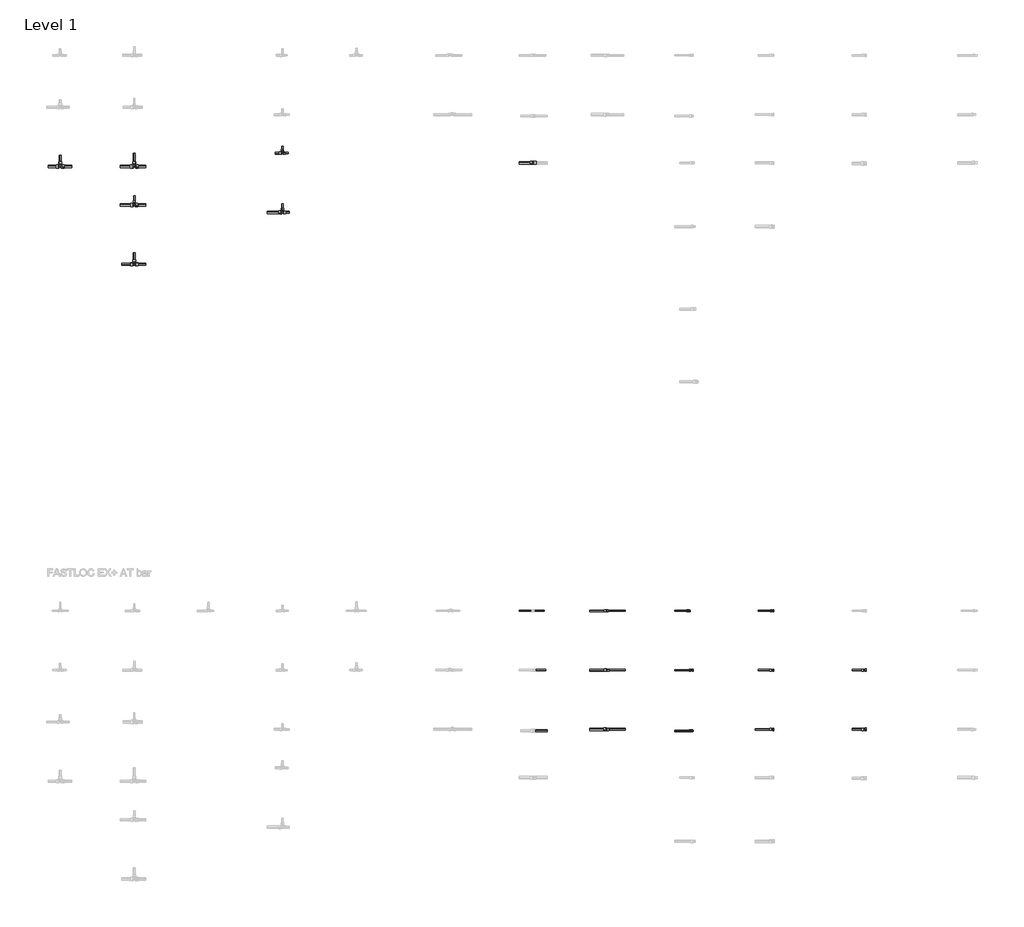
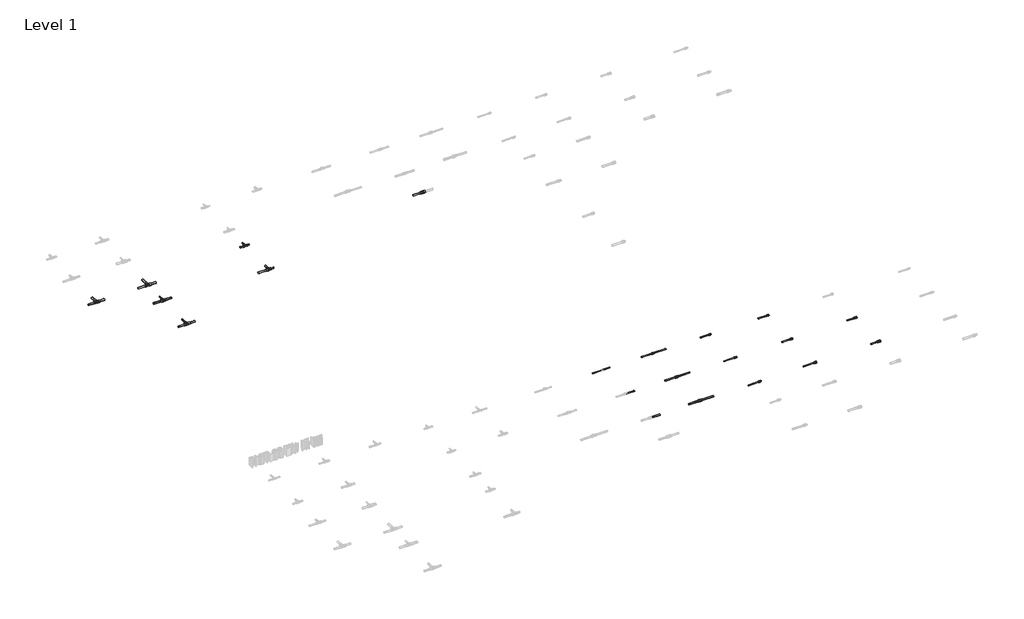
# One storey, part 3 of 16: 37 pipe segments, 18 pipe fittings.
"""IFC4 building model written with IfcOpenShell, lengths in millimetres."""

from ifc_helpers import new_model, si_unit, point, frame, frame_2d, origin, place, context, project, spatial, circle_curve, trimmed, segment, composite_curve, outline, extrude, transform, mapped, element, save
from components import pipe_fitting_41a35f07, pipe_fitting_bbd05bdc, pipe_fitting_7921c085, pipe_fitting_502111f3, pipe_fitting_137fcba6, pipe_fitting_c3e7e8f9, pipe_fitting_baae1e9c, pipe_fitting_6195120d, pipe_fitting_f5731c1c, pipe_fitting_f9f4b2e9, pipe_fitting_382bea88, pipe_fitting_836a2278, pipe_fitting_a8691e68, pipe_fitting_c518d98d, pipe_fitting_b7086254, pipe_fitting_f7ee4d9f, pipe_fitting_f8d70d0e

model = new_model("IFC4")

# Units and contexts
model_context = context("Model", 3, world=origin())
ifc_project = project(units=[si_unit("LENGTHUNIT", "METRE", prefix="MILLI")], contexts=[model_context])

# Site, building, storey
site = spatial("IfcSite", under=ifc_project)
building = spatial("IfcBuilding", under=site)
storey = spatial("IfcBuildingStorey", under=building, Name="Level 1", Elevation=0.0)

# Pipe fittings
placement = place(None, origin())
pipe_fitting_shape = pipe_fitting_41a35f07(model_context)
element("IfcPipeFitting", 1, ObjectType="FASTLOC_Adapter_RX+, with external thread : FSL A C external EX+ AT", at=placement, inside=storey, context=model_context, shape_type="MappedRepresentation", body=[
    mapped(pipe_fitting_shape, transform((10080.5062975, -7087.6479967, 0.0), x_axis=(1.0, 0.0, 0.0), y_axis=(0.0, 1.0, 0.0), z_axis=(0.0, 0.0, 1.0))),
])
pipe_fitting_2_shape = pipe_fitting_bbd05bdc(model_context)
element("IfcPipeFitting", 2, ObjectType="FASTLOC_Adapter_RX+, with external thread : FSL A C external EX+ AT", at=placement, inside=storey, context=model_context, shape_type="MappedRepresentation", body=[
    mapped(pipe_fitting_2_shape, transform((10090.6359613, -7906.354246, 0.0), x_axis=(1.0, 0.0, 0.0), y_axis=(0.0, 1.0, 0.0), z_axis=(0.0, 0.0, 1.0))),
])
pipe_fitting_3_shape = pipe_fitting_7921c085(model_context)
element("IfcPipeFitting", 3, ObjectType="FASTLOC_T-piece_EX+ : FSL T-Piece EX+ DE", at=placement, inside=storey, context=model_context, shape_type="MappedRepresentation", body=[
    mapped(pipe_fitting_3_shape, transform((1562.9146925, -287.6479967, 0.0), x_axis=(1.0, 0.0, 0.0), y_axis=(0.0, 1.0, 0.0), z_axis=(0.0, 0.0, 1.0))),
])
element("IfcPipeFitting", 4, ObjectType="FASTLOC_T-piece_EX+ : FSL T-Piece EX+ DE", at=placement, inside=storey, context=model_context, shape_type="MappedRepresentation", body=[
    mapped(pipe_fitting_3_shape, transform((2562.9146925, -287.6479967, 0.0), x_axis=(1.0, 0.0, 0.0), y_axis=(0.0, 1.0, 0.0), z_axis=(0.0, 0.0, 1.0))),
])
pipe_fitting_4_shape = pipe_fitting_502111f3(model_context)
element("IfcPipeFitting", 5, ObjectType="FASTLOC_T-piece_EX+ : FSL T-Piece EX+ DE", at=placement, inside=storey, context=model_context, shape_type="MappedRepresentation", body=[
    mapped(pipe_fitting_4_shape, transform((2562.9146925, -807.6479967, 0.0), x_axis=(1.0, 0.0, 0.0), y_axis=(0.0, 1.0, 0.0), z_axis=(0.0, 0.0, 1.0))),
])
pipe_fitting_5_shape = pipe_fitting_137fcba6(model_context)
element("IfcPipeFitting", 6, ObjectType="FASTLOC_T-piece_EX+ : FSL T-Piece EX+ DE", at=placement, inside=storey, context=model_context, shape_type="MappedRepresentation", body=[
    mapped(pipe_fitting_5_shape, transform((2562.9146925, -1607.6479967, 0.0), x_axis=(1.0, 0.0, 0.0), y_axis=(0.0, 1.0, 0.0), z_axis=(0.0, 0.0, 1.0))),
])
pipe_fitting_6_shape = pipe_fitting_c3e7e8f9(model_context)
element("IfcPipeFitting", 7, ObjectType="FASTLOC_T-piece_EX+ : FSL T-Piece EX+ DE", at=placement, inside=storey, context=model_context, shape_type="MappedRepresentation", body=[
    mapped(pipe_fitting_6_shape, transform((4562.9146925, -907.6479967, 0.0), x_axis=(1.0, 0.0, 0.0), y_axis=(0.0, 1.0, 0.0), z_axis=(0.0, 0.0, 1.0))),
])
pipe_fitting_7_shape = pipe_fitting_baae1e9c(model_context)
element("IfcPipeFitting", 8, ObjectType="FASTLOC_T-piece_EX+ : FSL T-Piece EX+ DE", at=placement, inside=storey, context=model_context, shape_type="MappedRepresentation", body=[
    mapped(pipe_fitting_7_shape, transform((4562.9146925, -107.6479967, 0.0), x_axis=(1.0, 0.0, 0.0), y_axis=(0.0, 1.0, 0.0), z_axis=(0.0, 0.0, 1.0))),
])
pipe_fitting_8_shape = pipe_fitting_6195120d(model_context)
element("IfcPipeFitting", 9, ObjectType="FASTLOC_Coupling reduced EX+ : FSL C RE EX+ AT", at=placement, inside=storey, context=model_context, shape_type="MappedRepresentation", body=[
    mapped(pipe_fitting_8_shape, transform((8942.2258143, -6287.6479967, 0.0), x_axis=(1.0, 0.0, 0.0), y_axis=(0.0, 1.0, 0.0), z_axis=(0.0, 0.0, 1.0))),
])
pipe_fitting_9_shape = pipe_fitting_f5731c1c(model_context)
element("IfcPipeFitting", 10, ObjectType="FASTLOC_Coupling equal EX+ : FSL C EQ EX+ DE", at=placement, inside=storey, context=model_context, shape_type="MappedRepresentation", body=[
    mapped(pipe_fitting_9_shape, transform((7947.6401575, -239.0537829, 0.0), x_axis=(1.0, 0.0, 0.0), y_axis=(0.0, 1.0, 0.0), z_axis=(0.0, 0.0, 1.0))),
])
pipe_fitting_10_shape = pipe_fitting_f9f4b2e9(model_context)
element("IfcPipeFitting", 11, ObjectType="FASTLOC_Coupling reduced EX+ : FSL C RE EX+ AT", at=placement, inside=storey, context=model_context, shape_type="MappedRepresentation", body=[
    mapped(pipe_fitting_10_shape, transform((8942.2258143, -7087.6479967, 0.0), x_axis=(1.0, 0.0, 0.0), y_axis=(0.0, 1.0, 0.0), z_axis=(0.0, 0.0, 1.0))),
])
pipe_fitting_11_shape = pipe_fitting_382bea88(model_context)
element("IfcPipeFitting", 12, ObjectType="FASTLOC_Coupling reduced EX+ : FSL C RE EX+ AT", at=placement, inside=storey, context=model_context, shape_type="MappedRepresentation", body=[
    mapped(pipe_fitting_11_shape, transform((8942.2258143, -7887.6479967, 0.0), x_axis=(1.0, 0.0, 0.0), y_axis=(0.0, 1.0, 0.0), z_axis=(0.0, 0.0, 1.0))),
])
pipe_fitting_12_shape = pipe_fitting_836a2278(model_context)
element("IfcPipeFitting", 13, ObjectType="FASTLOC_Adapter_EX+, with internal thread : FSL A internal AT", at=placement, inside=storey, context=model_context, shape_type="MappedRepresentation", body=[
    mapped(pipe_fitting_12_shape, transform((11179.5143796, -6287.6479967, 0.0), x_axis=(1.0, 0.0, 0.0), y_axis=(0.0, 1.0, 0.0), z_axis=(0.0, 0.0, 1.0))),
])
pipe_fitting_13_shape = pipe_fitting_a8691e68(model_context)
element("IfcPipeFitting", 14, ObjectType="FASTLOC_Adapter_RX+, with external thread : FSL A C external EX+ AT", at=placement, inside=storey, context=model_context, shape_type="MappedRepresentation", body=[
    mapped(pipe_fitting_13_shape, transform((10045.0524741, -6287.6479967, 0.0), x_axis=(1.0, 0.0, 0.0), y_axis=(0.0, 1.0, 0.0), z_axis=(0.0, 0.0, 1.0))),
])
pipe_fitting_14_shape = pipe_fitting_c518d98d(model_context)
element("IfcPipeFitting", 15, ObjectType="FASTLOC_Adapter with union nut EX+ : FSL A union nut EX+ AT", at=placement, inside=storey, context=model_context, shape_type="MappedRepresentation", body=[
    mapped(pipe_fitting_14_shape, transform((12418.3503777, -7087.6479967, 0.0), x_axis=(1.0, 0.0, 0.0), y_axis=(0.0, 1.0, 0.0), z_axis=(0.0, 0.0, 1.0))),
])
pipe_fitting_15_shape = pipe_fitting_b7086254(model_context)
element("IfcPipeFitting", 16, ObjectType="FASTLOC_Adapter with union nut EX+ : FSL A union nut EX+ AT", at=placement, inside=storey, context=model_context, shape_type="MappedRepresentation", body=[
    mapped(pipe_fitting_15_shape, transform((12418.3503777, -7887.6479967, 0.0), x_axis=(1.0, 0.0, 0.0), y_axis=(0.0, 1.0, 0.0), z_axis=(0.0, 0.0, 1.0))),
])
pipe_fitting_16_shape = pipe_fitting_f7ee4d9f(model_context)
element("IfcPipeFitting", 17, ObjectType="FASTLOC_Adapter_EX+, with internal thread : FSL A internal AT", at=placement, inside=storey, context=model_context, shape_type="MappedRepresentation", body=[
    mapped(pipe_fitting_16_shape, transform((11179.5143796, -7087.6479967, 0.0), x_axis=(1.0, 0.0, 0.0), y_axis=(0.0, 1.0, 0.0), z_axis=(0.0, 0.0, 1.0))),
])
pipe_fitting_17_shape = pipe_fitting_f8d70d0e(model_context)
element("IfcPipeFitting", 18, ObjectType="FASTLOC_Adapter_EX+, with internal thread : FSL A internal AT", at=placement, inside=storey, context=model_context, shape_type="MappedRepresentation", body=[
    mapped(pipe_fitting_17_shape, transform((11179.5143796, -7887.6479967, 0.0), x_axis=(1.0, 0.0, 0.0), y_axis=(0.0, 1.0, 0.0), z_axis=(0.0, 0.0, 1.0))),
])

# Pipe segments
element("IfcPipeSegment", 19, ObjectType="FASTLOC EX+ ML DE bar", at=placement, inside=storey, context=model_context, shape_type="SweptSolid", body=[
    extrude(outline(composite_curve([segment(trimmed(circle_curve(frame_2d((-239.0537829, 0.0)), 16.0), [point((-223.0537829, 0.0))], [point((-239.0537829, -16.0))], False, "CARTESIAN"), True, "CONTINUOUS"), segment(trimmed(circle_curve(frame_2d((-239.0537829, 0.0)), 16.0), [point((-239.0537829, -16.0))], [point((-255.0537829, 0.0))], False, "CARTESIAN"), True, "CONTINUOUS"), segment(trimmed(circle_curve(frame_2d((-239.0537829, 0.0)), 16.0), [point((-255.0537829, 0.0))], [point((-239.0537829, 16.0))], False, "CARTESIAN"), True, "CONTINUOUS"), segment(trimmed(circle_curve(frame_2d((-239.0537829, 0.0)), 16.0), [point((-239.0537829, 16.0))], [point((-223.0537829, 0.0))], False, "CARTESIAN"), True, "CONTINUOUS")], self_intersect=False)), frame((7757.6401575, 0.0, 0.0), z_axis=(1.0, 0.0, 0.0), x_axis=(0.0, 1.0, 0.0)), (0.0, 0.0, 1.0), 180.0),
])
element("IfcPipeSegment", 20, ObjectType="FASTLOC EX+ ML DE bar", at=placement, inside=storey, context=model_context, shape_type="SweptSolid", body=[
    extrude(outline(composite_curve([segment(trimmed(circle_curve(frame_2d((-107.6479967, 0.0)), 10.0), [point((-117.6479967, 0.0))], [point((-107.6479967, 10.0))], False, "CARTESIAN"), True, "CONTINUOUS"), segment(trimmed(circle_curve(frame_2d((-107.6479967, 0.0)), 10.0), [point((-107.6479967, 10.0))], [point((-97.6479967, 0.0))], False, "CARTESIAN"), True, "CONTINUOUS"), segment(trimmed(circle_curve(frame_2d((-107.6479967, 0.0)), 10.0), [point((-97.6479967, 0.0))], [point((-107.6479967, -10.0))], False, "CARTESIAN"), True, "CONTINUOUS"), segment(trimmed(circle_curve(frame_2d((-107.6479967, 0.0)), 10.0), [point((-107.6479967, -10.0))], [point((-117.6479967, 0.0))], False, "CARTESIAN"), True, "CONTINUOUS")], self_intersect=False)), frame((4580.3146925, 0.0, 0.0), z_axis=(1.0, 0.0, 0.0), x_axis=(0.0, 1.0, 0.0)), (0.0, 0.0, 1.0), 60.0),
])
element("IfcPipeSegment", 21, ObjectType="FASTLOC EX+ ML DE bar", at=placement, inside=storey, context=model_context, shape_type="SweptSolid", body=[
    extrude(outline(composite_curve([segment(trimmed(circle_curve(frame_2d((0.0, 4562.9146925)), 10.0), [point((0.0, 4572.9146925))], [point((10.0, 4562.9146925))], False, "CARTESIAN"), True, "CONTINUOUS"), segment(trimmed(circle_curve(frame_2d((0.0, 4562.9146925)), 10.0), [point((10.0, 4562.9146925))], [point((0.0, 4552.9146925))], False, "CARTESIAN"), True, "CONTINUOUS"), segment(trimmed(circle_curve(frame_2d((0.0, 4562.9146925)), 10.0), [point((0.0, 4552.9146925))], [point((-10.0, 4562.9146925))], False, "CARTESIAN"), True, "CONTINUOUS"), segment(trimmed(circle_curve(frame_2d((0.0, 4562.9146925)), 10.0), [point((-10.0, 4562.9146925))], [point((0.0, 4572.9146925))], False, "CARTESIAN"), True, "CONTINUOUS")], self_intersect=False)), frame((0.0, -78.4479967, 0.0), z_axis=(0.0, 1.0, 0.0), x_axis=(0.0, 0.0, 1.0)), (0.0, 0.0, 1.0), 65.0),
])
element("IfcPipeSegment", 22, ObjectType="FASTLOC EX+ ML DE bar", at=placement, inside=storey, context=model_context, shape_type="SweptSolid", body=[
    extrude(outline(composite_curve([segment(trimmed(circle_curve(frame_2d((-107.6479967, 0.0)), 12.5), [point((-95.1479967, 0.0))], [point((-107.6479967, -12.5))], False, "CARTESIAN"), True, "CONTINUOUS"), segment(trimmed(circle_curve(frame_2d((-107.6479967, 0.0)), 12.5), [point((-107.6479967, -12.5))], [point((-120.1479967, 0.0))], False, "CARTESIAN"), True, "CONTINUOUS"), segment(trimmed(circle_curve(frame_2d((-107.6479967, 0.0)), 12.5), [point((-120.1479967, 0.0))], [point((-107.6479967, 12.5))], False, "CARTESIAN"), True, "CONTINUOUS"), segment(trimmed(circle_curve(frame_2d((-107.6479967, 0.0)), 12.5), [point((-107.6479967, 12.5))], [point((-95.1479967, 0.0))], False, "CARTESIAN"), True, "CONTINUOUS")], self_intersect=False)), frame((4464.6146925, 0.0, 0.0), z_axis=(1.0, 0.0, 0.0), x_axis=(0.0, 1.0, 0.0)), (0.0, 0.0, 1.0), 80.0),
])
element("IfcPipeSegment", 23, ObjectType="FASTLOC EX+ ML DE bar", at=placement, inside=storey, context=model_context, shape_type="SweptSolid", body=[
    extrude(outline(composite_curve([segment(trimmed(circle_curve(frame_2d((-907.6479967, 0.0)), 12.5), [point((-920.1479967, 0.0))], [point((-907.6479967, 12.5))], False, "CARTESIAN"), True, "CONTINUOUS"), segment(trimmed(circle_curve(frame_2d((-907.6479967, 0.0)), 12.5), [point((-907.6479967, 12.5))], [point((-895.1479967, 0.0))], False, "CARTESIAN"), True, "CONTINUOUS"), segment(trimmed(circle_curve(frame_2d((-907.6479967, 0.0)), 12.5), [point((-895.1479967, 0.0))], [point((-907.6479967, -12.5))], False, "CARTESIAN"), True, "CONTINUOUS"), segment(trimmed(circle_curve(frame_2d((-907.6479967, 0.0)), 12.5), [point((-907.6479967, -12.5))], [point((-920.1479967, 0.0))], False, "CARTESIAN"), True, "CONTINUOUS")], self_intersect=False)), frame((4583.0146925, 0.0, 0.0), z_axis=(1.0, 0.0, 0.0), x_axis=(0.0, 1.0, 0.0)), (0.0, 0.0, 1.0), 70.4),
])
element("IfcPipeSegment", 24, ObjectType="FASTLOC EX+ ML DE bar", at=placement, inside=storey, context=model_context, shape_type="SweptSolid", body=[
    extrude(outline(composite_curve([segment(trimmed(circle_curve(frame_2d((0.0, 4562.9146925)), 12.5), [point((0.0, 4575.4146925))], [point((12.5, 4562.9146925))], False, "CARTESIAN"), True, "CONTINUOUS"), segment(trimmed(circle_curve(frame_2d((0.0, 4562.9146925)), 12.5), [point((12.5, 4562.9146925))], [point((0.0, 4550.4146925))], False, "CARTESIAN"), True, "CONTINUOUS"), segment(trimmed(circle_curve(frame_2d((0.0, 4562.9146925)), 12.5), [point((0.0, 4550.4146925))], [point((-12.5, 4562.9146925))], False, "CARTESIAN"), True, "CONTINUOUS"), segment(trimmed(circle_curve(frame_2d((0.0, 4562.9146925)), 12.5), [point((-12.5, 4562.9146925))], [point((0.0, 4575.4146925))], False, "CARTESIAN"), True, "CONTINUOUS")], self_intersect=False)), frame((0.0, -873.2479967, 0.0), z_axis=(0.0, 1.0, 0.0), x_axis=(0.0, 0.0, 1.0)), (0.0, 0.0, 1.0), 85.0),
])
element("IfcPipeSegment", 25, ObjectType="FASTLOC EX+ ML DE bar", at=placement, inside=storey, context=model_context, shape_type="SweptSolid", body=[
    extrude(outline(composite_curve([segment(trimmed(circle_curve(frame_2d((-907.6479967, 0.0)), 16.0), [point((-891.6479967, 0.0))], [point((-907.6479967, -16.0))], False, "CARTESIAN"), True, "CONTINUOUS"), segment(trimmed(circle_curve(frame_2d((-907.6479967, 0.0)), 16.0), [point((-907.6479967, -16.0))], [point((-923.6479967, 0.0))], False, "CARTESIAN"), True, "CONTINUOUS"), segment(trimmed(circle_curve(frame_2d((-907.6479967, 0.0)), 16.0), [point((-923.6479967, 0.0))], [point((-907.6479967, 16.0))], False, "CARTESIAN"), True, "CONTINUOUS"), segment(trimmed(circle_curve(frame_2d((-907.6479967, 0.0)), 16.0), [point((-907.6479967, 16.0))], [point((-891.6479967, 0.0))], False, "CARTESIAN"), True, "CONTINUOUS")], self_intersect=False)), frame((4355.8146925, 0.0, 0.0), z_axis=(1.0, 0.0, 0.0), x_axis=(0.0, 1.0, 0.0)), (0.0, 0.0, 1.0), 185.0),
])
element("IfcPipeSegment", 26, ObjectType="FASTLOC EX+ ML DE bar", at=placement, inside=storey, context=model_context, shape_type="SweptSolid", body=[
    extrude(outline(composite_curve([segment(trimmed(circle_curve(frame_2d((-287.6479967, 0.0)), 16.0), [point((-303.6479967, 0.0))], [point((-287.6479967, 16.0))], False, "CARTESIAN"), True, "CONTINUOUS"), segment(trimmed(circle_curve(frame_2d((-287.6479967, 0.0)), 16.0), [point((-287.6479967, 16.0))], [point((-271.6479967, 0.0))], False, "CARTESIAN"), True, "CONTINUOUS"), segment(trimmed(circle_curve(frame_2d((-287.6479967, 0.0)), 16.0), [point((-271.6479967, 0.0))], [point((-287.6479967, -16.0))], False, "CARTESIAN"), True, "CONTINUOUS"), segment(trimmed(circle_curve(frame_2d((-287.6479967, 0.0)), 16.0), [point((-287.6479967, -16.0))], [point((-303.6479967, 0.0))], False, "CARTESIAN"), True, "CONTINUOUS")], self_intersect=False)), frame((2587.7146925, 0.0, 0.0), z_axis=(1.0, 0.0, 0.0), x_axis=(0.0, 1.0, 0.0)), (0.0, 0.0, 1.0), 130.0),
])
element("IfcPipeSegment", 27, ObjectType="FASTLOC EX+ ML DE bar", at=placement, inside=storey, context=model_context, shape_type="SweptSolid", body=[
    extrude(outline(composite_curve([segment(trimmed(circle_curve(frame_2d((0.0, 2562.9146925)), 16.0), [point((0.0, 2578.9146925))], [point((16.0, 2562.9146925))], False, "CARTESIAN"), True, "CONTINUOUS"), segment(trimmed(circle_curve(frame_2d((0.0, 2562.9146925)), 16.0), [point((16.0, 2562.9146925))], [point((0.0, 2546.9146925))], False, "CARTESIAN"), True, "CONTINUOUS"), segment(trimmed(circle_curve(frame_2d((0.0, 2562.9146925)), 16.0), [point((0.0, 2546.9146925))], [point((-16.0, 2562.9146925))], False, "CARTESIAN"), True, "CONTINUOUS"), segment(trimmed(circle_curve(frame_2d((0.0, 2562.9146925)), 16.0), [point((-16.0, 2562.9146925))], [point((0.0, 2578.9146925))], False, "CARTESIAN"), True, "CONTINUOUS")], self_intersect=False)), frame((0.0, -251.5479967, 0.0), z_axis=(0.0, 1.0, 0.0), x_axis=(0.0, 0.0, 1.0)), (0.0, 0.0, 1.0), 145.0),
])
element("IfcPipeSegment", 28, ObjectType="FASTLOC EX+ ML DE bar", at=placement, inside=storey, context=model_context, shape_type="SweptSolid", body=[
    extrude(outline(composite_curve([segment(trimmed(circle_curve(frame_2d((-287.6479967, 0.0)), 16.0), [point((-271.6479967, 0.0))], [point((-287.6479967, -16.0))], False, "CARTESIAN"), True, "CONTINUOUS"), segment(trimmed(circle_curve(frame_2d((-287.6479967, 0.0)), 16.0), [point((-287.6479967, -16.0))], [point((-303.6479967, 0.0))], False, "CARTESIAN"), True, "CONTINUOUS"), segment(trimmed(circle_curve(frame_2d((-287.6479967, 0.0)), 16.0), [point((-303.6479967, 0.0))], [point((-287.6479967, 16.0))], False, "CARTESIAN"), True, "CONTINUOUS"), segment(trimmed(circle_curve(frame_2d((-287.6479967, 0.0)), 16.0), [point((-287.6479967, 16.0))], [point((-271.6479967, 0.0))], False, "CARTESIAN"), True, "CONTINUOUS")], self_intersect=False)), frame((2373.1146925, 0.0, 0.0), z_axis=(1.0, 0.0, 0.0), x_axis=(0.0, 1.0, 0.0)), (0.0, 0.0, 1.0), 165.0),
])
element("IfcPipeSegment", 29, ObjectType="FASTLOC EX+ ML DE bar", at=placement, inside=storey, context=model_context, shape_type="SweptSolid", body=[
    extrude(outline(composite_curve([segment(trimmed(circle_curve(frame_2d((-807.6479967, 0.0)), 16.0), [point((-823.6479967, 0.0))], [point((-807.6479967, 16.0))], False, "CARTESIAN"), True, "CONTINUOUS"), segment(trimmed(circle_curve(frame_2d((-807.6479967, 0.0)), 16.0), [point((-807.6479967, 16.0))], [point((-791.6479967, 0.0))], False, "CARTESIAN"), True, "CONTINUOUS"), segment(trimmed(circle_curve(frame_2d((-807.6479967, 0.0)), 16.0), [point((-791.6479967, 0.0))], [point((-807.6479967, -16.0))], False, "CARTESIAN"), True, "CONTINUOUS"), segment(trimmed(circle_curve(frame_2d((-807.6479967, 0.0)), 16.0), [point((-807.6479967, -16.0))], [point((-823.6479967, 0.0))], False, "CARTESIAN"), True, "CONTINUOUS")], self_intersect=False)), frame((2583.1146925, 0.0, 0.0), z_axis=(1.0, 0.0, 0.0), x_axis=(0.0, 1.0, 0.0)), (0.0, 0.0, 1.0), 134.6),
])
element("IfcPipeSegment", 30, ObjectType="FASTLOC EX+ ML DE bar", at=placement, inside=storey, context=model_context, shape_type="SweptSolid", body=[
    extrude(outline(composite_curve([segment(trimmed(circle_curve(frame_2d((-807.6479967, 0.0)), 16.0), [point((-791.6479967, 0.0))], [point((-807.6479967, -16.0))], False, "CARTESIAN"), True, "CONTINUOUS"), segment(trimmed(circle_curve(frame_2d((-807.6479967, 0.0)), 16.0), [point((-807.6479967, -16.0))], [point((-823.6479967, 0.0))], False, "CARTESIAN"), True, "CONTINUOUS"), segment(trimmed(circle_curve(frame_2d((-807.6479967, 0.0)), 16.0), [point((-823.6479967, 0.0))], [point((-807.6479967, 16.0))], False, "CARTESIAN"), True, "CONTINUOUS"), segment(trimmed(circle_curve(frame_2d((-807.6479967, 0.0)), 16.0), [point((-807.6479967, 16.0))], [point((-791.6479967, 0.0))], False, "CARTESIAN"), True, "CONTINUOUS")], self_intersect=False)), frame((2373.1146925, 0.0, 0.0), z_axis=(1.0, 0.0, 0.0), x_axis=(0.0, 1.0, 0.0)), (0.0, 0.0, 1.0), 169.6),
])
element("IfcPipeSegment", 31, ObjectType="FASTLOC EX+ ML DE bar", at=placement, inside=storey, context=model_context, shape_type="SweptSolid", body=[
    extrude(outline(composite_curve([segment(trimmed(circle_curve(frame_2d((0.0, 2562.9146925)), 10.0), [point((0.0, 2572.9146925))], [point((10.0, 2562.9146925))], False, "CARTESIAN"), True, "CONTINUOUS"), segment(trimmed(circle_curve(frame_2d((0.0, 2562.9146925)), 10.0), [point((10.0, 2562.9146925))], [point((0.0, 2552.9146925))], False, "CARTESIAN"), True, "CONTINUOUS"), segment(trimmed(circle_curve(frame_2d((0.0, 2562.9146925)), 10.0), [point((0.0, 2552.9146925))], [point((-10.0, 2562.9146925))], False, "CARTESIAN"), True, "CONTINUOUS"), segment(trimmed(circle_curve(frame_2d((0.0, 2562.9146925)), 10.0), [point((-10.0, 2562.9146925))], [point((0.0, 2572.9146925))], False, "CARTESIAN"), True, "CONTINUOUS")], self_intersect=False)), frame((0.0, -773.6479967, 0.0), z_axis=(0.0, 1.0, 0.0), x_axis=(0.0, 0.0, 1.0)), (0.0, 0.0, 1.0), 90.0),
])
element("IfcPipeSegment", 32, ObjectType="FASTLOC EX+ ML DE bar", at=placement, inside=storey, context=model_context, shape_type="SweptSolid", body=[
    extrude(outline(composite_curve([segment(trimmed(circle_curve(frame_2d((-1607.6479967, 0.0)), 16.0), [point((-1623.6479967, 0.0))], [point((-1607.6479967, 16.0))], False, "CARTESIAN"), True, "CONTINUOUS"), segment(trimmed(circle_curve(frame_2d((-1607.6479967, 0.0)), 16.0), [point((-1607.6479967, 16.0))], [point((-1591.6479967, 0.0))], False, "CARTESIAN"), True, "CONTINUOUS"), segment(trimmed(circle_curve(frame_2d((-1607.6479967, 0.0)), 16.0), [point((-1591.6479967, 0.0))], [point((-1607.6479967, -16.0))], False, "CARTESIAN"), True, "CONTINUOUS"), segment(trimmed(circle_curve(frame_2d((-1607.6479967, 0.0)), 16.0), [point((-1607.6479967, -16.0))], [point((-1623.6479967, 0.0))], False, "CARTESIAN"), True, "CONTINUOUS")], self_intersect=False)), frame((2584.9146925, 0.0, 0.0), z_axis=(1.0, 0.0, 0.0), x_axis=(0.0, 1.0, 0.0)), (0.0, 0.0, 1.0), 132.8),
])
element("IfcPipeSegment", 33, ObjectType="FASTLOC EX+ ML DE bar", at=placement, inside=storey, context=model_context, shape_type="SweptSolid", body=[
    extrude(outline(composite_curve([segment(trimmed(circle_curve(frame_2d((-1607.6479967, 0.0)), 16.0), [point((-1591.6479967, 0.0))], [point((-1607.6479967, -16.0))], False, "CARTESIAN"), True, "CONTINUOUS"), segment(trimmed(circle_curve(frame_2d((-1607.6479967, 0.0)), 16.0), [point((-1607.6479967, -16.0))], [point((-1623.6479967, 0.0))], False, "CARTESIAN"), True, "CONTINUOUS"), segment(trimmed(circle_curve(frame_2d((-1607.6479967, 0.0)), 16.0), [point((-1623.6479967, 0.0))], [point((-1607.6479967, 16.0))], False, "CARTESIAN"), True, "CONTINUOUS"), segment(trimmed(circle_curve(frame_2d((-1607.6479967, 0.0)), 16.0), [point((-1607.6479967, 16.0))], [point((-1591.6479967, 0.0))], False, "CARTESIAN"), True, "CONTINUOUS")], self_intersect=False)), frame((2395.9146925, 0.0, 0.0), z_axis=(1.0, 0.0, 0.0), x_axis=(0.0, 1.0, 0.0)), (0.0, 0.0, 1.0), 145.0),
])
element("IfcPipeSegment", 34, ObjectType="FASTLOC EX+ ML DE bar", at=placement, inside=storey, context=model_context, shape_type="SweptSolid", body=[
    extrude(outline(composite_curve([segment(trimmed(circle_curve(frame_2d((0.0, 2562.9146925)), 12.5), [point((0.0, 2575.4146925))], [point((12.5, 2562.9146925))], False, "CARTESIAN"), True, "CONTINUOUS"), segment(trimmed(circle_curve(frame_2d((0.0, 2562.9146925)), 12.5), [point((12.5, 2562.9146925))], [point((0.0, 2550.4146925))], False, "CARTESIAN"), True, "CONTINUOUS"), segment(trimmed(circle_curve(frame_2d((0.0, 2562.9146925)), 12.5), [point((0.0, 2550.4146925))], [point((-12.5, 2562.9146925))], False, "CARTESIAN"), True, "CONTINUOUS"), segment(trimmed(circle_curve(frame_2d((0.0, 2562.9146925)), 12.5), [point((-12.5, 2562.9146925))], [point((0.0, 2575.4146925))], False, "CARTESIAN"), True, "CONTINUOUS")], self_intersect=False)), frame((0.0, -1573.2479967, 0.0), z_axis=(0.0, 1.0, 0.0), x_axis=(0.0, 0.0, 1.0)), (0.0, 0.0, 1.0), 120.0),
])
element("IfcPipeSegment", 35, ObjectType="FASTLOC EX+ ML DE bar", at=placement, inside=storey, context=model_context, shape_type="SweptSolid", body=[
    extrude(outline(composite_curve([segment(trimmed(circle_curve(frame_2d((-287.6479967, 0.0)), 16.0), [point((-303.6479967, 0.0))], [point((-287.6479967, 16.0))], False, "CARTESIAN"), True, "CONTINUOUS"), segment(trimmed(circle_curve(frame_2d((-287.6479967, 0.0)), 16.0), [point((-287.6479967, 16.0))], [point((-271.6479967, 0.0))], False, "CARTESIAN"), True, "CONTINUOUS"), segment(trimmed(circle_curve(frame_2d((-287.6479967, 0.0)), 16.0), [point((-271.6479967, 0.0))], [point((-287.6479967, -16.0))], False, "CARTESIAN"), True, "CONTINUOUS"), segment(trimmed(circle_curve(frame_2d((-287.6479967, 0.0)), 16.0), [point((-287.6479967, -16.0))], [point((-303.6479967, 0.0))], False, "CARTESIAN"), True, "CONTINUOUS")], self_intersect=False)), frame((1587.7146925, 0.0, 0.0), z_axis=(1.0, 0.0, 0.0), x_axis=(0.0, 1.0, 0.0)), (0.0, 0.0, 1.0), 130.0),
])
element("IfcPipeSegment", 36, ObjectType="FASTLOC EX+ ML DE bar", at=placement, inside=storey, context=model_context, shape_type="SweptSolid", body=[
    extrude(outline(composite_curve([segment(trimmed(circle_curve(frame_2d((-287.6479967, 0.0)), 16.0), [point((-271.6479967, 0.0))], [point((-287.6479967, -16.0))], False, "CARTESIAN"), True, "CONTINUOUS"), segment(trimmed(circle_curve(frame_2d((-287.6479967, 0.0)), 16.0), [point((-287.6479967, -16.0))], [point((-303.6479967, 0.0))], False, "CARTESIAN"), True, "CONTINUOUS"), segment(trimmed(circle_curve(frame_2d((-287.6479967, 0.0)), 16.0), [point((-303.6479967, 0.0))], [point((-287.6479967, 16.0))], False, "CARTESIAN"), True, "CONTINUOUS"), segment(trimmed(circle_curve(frame_2d((-287.6479967, 0.0)), 16.0), [point((-287.6479967, 16.0))], [point((-271.6479967, 0.0))], False, "CARTESIAN"), True, "CONTINUOUS")], self_intersect=False)), frame((1403.1146925, 0.0, 0.0), z_axis=(1.0, 0.0, 0.0), x_axis=(0.0, 1.0, 0.0)), (0.0, 0.0, 1.0), 135.0),
])
element("IfcPipeSegment", 37, ObjectType="FASTLOC EX+ ML DE bar", at=placement, inside=storey, context=model_context, shape_type="SweptSolid", body=[
    extrude(outline(composite_curve([segment(trimmed(circle_curve(frame_2d((0.0, 1562.9146925)), 16.0), [point((0.0, 1578.9146925))], [point((16.0, 1562.9146925))], False, "CARTESIAN"), True, "CONTINUOUS"), segment(trimmed(circle_curve(frame_2d((0.0, 1562.9146925)), 16.0), [point((16.0, 1562.9146925))], [point((0.0, 1546.9146925))], False, "CARTESIAN"), True, "CONTINUOUS"), segment(trimmed(circle_curve(frame_2d((0.0, 1562.9146925)), 16.0), [point((0.0, 1546.9146925))], [point((-16.0, 1562.9146925))], False, "CARTESIAN"), True, "CONTINUOUS"), segment(trimmed(circle_curve(frame_2d((0.0, 1562.9146925)), 16.0), [point((-16.0, 1562.9146925))], [point((0.0, 1578.9146925))], False, "CARTESIAN"), True, "CONTINUOUS")], self_intersect=False)), frame((0.0, -251.5479967, 0.0), z_axis=(0.0, 1.0, 0.0), x_axis=(0.0, 0.0, 1.0)), (0.0, 0.0, 1.0), 115.0),
])
element("IfcPipeSegment", 38, ObjectType="FASTLOC EX+ ML AT bar", at=placement, inside=storey, context=model_context, shape_type="SweptSolid", body=[
    extrude(outline(composite_curve([segment(trimmed(circle_curve(frame_2d((-7087.6479967, 0.0)), 10.0), [point((-7077.6479967, 0.0))], [point((-7087.6479967, -10.0))], False, "CARTESIAN"), True, "CONTINUOUS"), segment(trimmed(circle_curve(frame_2d((-7087.6479967, 0.0)), 10.0), [point((-7087.6479967, -10.0))], [point((-7097.6479967, 0.0))], False, "CARTESIAN"), True, "CONTINUOUS"), segment(trimmed(circle_curve(frame_2d((-7087.6479967, 0.0)), 10.0), [point((-7097.6479967, 0.0))], [point((-7087.6479967, 10.0))], False, "CARTESIAN"), True, "CONTINUOUS"), segment(trimmed(circle_curve(frame_2d((-7087.6479967, 0.0)), 10.0), [point((-7087.6479967, 10.0))], [point((-7077.6479967, 0.0))], False, "CARTESIAN"), True, "CONTINUOUS")], self_intersect=False)), frame((12259.3503777, 0.0, 0.0), z_axis=(1.0, 0.0, 0.0), x_axis=(0.0, 1.0, 0.0)), (0.0, 0.0, 1.0), 150.0),
])
element("IfcPipeSegment", 39, ObjectType="FASTLOC EX+ ML AT bar", at=placement, inside=storey, context=model_context, shape_type="SweptSolid", body=[
    extrude(outline(composite_curve([segment(trimmed(circle_curve(frame_2d((-7887.6479967, 0.0)), 12.5), [point((-7875.1479967, 0.0))], [point((-7887.6479967, -12.5))], False, "CARTESIAN"), True, "CONTINUOUS"), segment(trimmed(circle_curve(frame_2d((-7887.6479967, 0.0)), 12.5), [point((-7887.6479967, -12.5))], [point((-7900.1479967, 0.0))], False, "CARTESIAN"), True, "CONTINUOUS"), segment(trimmed(circle_curve(frame_2d((-7887.6479967, 0.0)), 12.5), [point((-7900.1479967, 0.0))], [point((-7887.6479967, 12.5))], False, "CARTESIAN"), True, "CONTINUOUS"), segment(trimmed(circle_curve(frame_2d((-7887.6479967, 0.0)), 12.5), [point((-7887.6479967, 12.5))], [point((-7875.1479967, 0.0))], False, "CARTESIAN"), True, "CONTINUOUS")], self_intersect=False)), frame((12259.3503777, 0.0, 0.0), z_axis=(1.0, 0.0, 0.0), x_axis=(0.0, 1.0, 0.0)), (0.0, 0.0, 1.0), 148.7),
])
element("IfcPipeSegment", 40, ObjectType="FASTLOC EX+ ML AT bar", at=placement, inside=storey, context=model_context, shape_type="SweptSolid", body=[
    extrude(outline(composite_curve([segment(trimmed(circle_curve(frame_2d((-6287.6479967, 0.0)), 8.0), [point((-6279.6479967, 0.0))], [point((-6287.6479967, -8.0))], False, "CARTESIAN"), True, "CONTINUOUS"), segment(trimmed(circle_curve(frame_2d((-6287.6479967, 0.0)), 8.0), [point((-6287.6479967, -8.0))], [point((-6295.6479967, 0.0))], False, "CARTESIAN"), True, "CONTINUOUS"), segment(trimmed(circle_curve(frame_2d((-6287.6479967, 0.0)), 8.0), [point((-6295.6479967, 0.0))], [point((-6287.6479967, 8.0))], False, "CARTESIAN"), True, "CONTINUOUS"), segment(trimmed(circle_curve(frame_2d((-6287.6479967, 0.0)), 8.0), [point((-6287.6479967, 8.0))], [point((-6279.6479967, 0.0))], False, "CARTESIAN"), True, "CONTINUOUS")], self_intersect=False)), frame((10987.1143796, 0.0, 0.0), z_axis=(1.0, 0.0, 0.0), x_axis=(0.0, 1.0, 0.0)), (0.0, 0.0, 1.0), 180.0),
])
element("IfcPipeSegment", 41, ObjectType="FASTLOC EX+ ML AT bar", at=placement, inside=storey, context=model_context, shape_type="SweptSolid", body=[
    extrude(outline(composite_curve([segment(trimmed(circle_curve(frame_2d((-7087.6479967, 0.0)), 10.0), [point((-7077.6479967, 0.0))], [point((-7087.6479967, -10.0))], False, "CARTESIAN"), True, "CONTINUOUS"), segment(trimmed(circle_curve(frame_2d((-7087.6479967, 0.0)), 10.0), [point((-7087.6479967, -10.0))], [point((-7097.6479967, 0.0))], False, "CARTESIAN"), True, "CONTINUOUS"), segment(trimmed(circle_curve(frame_2d((-7087.6479967, 0.0)), 10.0), [point((-7097.6479967, 0.0))], [point((-7087.6479967, 10.0))], False, "CARTESIAN"), True, "CONTINUOUS"), segment(trimmed(circle_curve(frame_2d((-7087.6479967, 0.0)), 10.0), [point((-7087.6479967, 10.0))], [point((-7077.6479967, 0.0))], False, "CARTESIAN"), True, "CONTINUOUS")], self_intersect=False)), frame((10987.1143796, 0.0, 0.0), z_axis=(1.0, 0.0, 0.0), x_axis=(0.0, 1.0, 0.0)), (0.0, 0.0, 1.0), 180.7),
])
element("IfcPipeSegment", 42, ObjectType="FASTLOC EX+ ML AT bar", at=placement, inside=storey, context=model_context, shape_type="SweptSolid", body=[
    extrude(outline(composite_curve([segment(trimmed(circle_curve(frame_2d((-7887.6479967, 0.0)), 10.0), [point((-7877.6479967, 0.0))], [point((-7887.6479967, -10.0))], False, "CARTESIAN"), True, "CONTINUOUS"), segment(trimmed(circle_curve(frame_2d((-7887.6479967, 0.0)), 10.0), [point((-7887.6479967, -10.0))], [point((-7897.6479967, 0.0))], False, "CARTESIAN"), True, "CONTINUOUS"), segment(trimmed(circle_curve(frame_2d((-7887.6479967, 0.0)), 10.0), [point((-7897.6479967, 0.0))], [point((-7887.6479967, 10.0))], False, "CARTESIAN"), True, "CONTINUOUS"), segment(trimmed(circle_curve(frame_2d((-7887.6479967, 0.0)), 10.0), [point((-7887.6479967, 10.0))], [point((-7877.6479967, 0.0))], False, "CARTESIAN"), True, "CONTINUOUS")], self_intersect=False)), frame((10946.2143796, 0.0, 0.0), z_axis=(1.0, 0.0, 0.0), x_axis=(0.0, 1.0, 0.0)), (0.0, 0.0, 1.0), 220.0),
])
element("IfcPipeSegment", 43, ObjectType="FASTLOC EX+ ML AT bar", at=placement, inside=storey, context=model_context, shape_type="SweptSolid", body=[
    extrude(outline(composite_curve([segment(trimmed(circle_curve(frame_2d((-7906.354246, 0.0)), 10.0), [point((-7896.354246, 0.0))], [point((-7906.354246, -10.0))], False, "CARTESIAN"), True, "CONTINUOUS"), segment(trimmed(circle_curve(frame_2d((-7906.354246, 0.0)), 10.0), [point((-7906.354246, -10.0))], [point((-7916.354246, 0.0))], False, "CARTESIAN"), True, "CONTINUOUS"), segment(trimmed(circle_curve(frame_2d((-7906.354246, 0.0)), 10.0), [point((-7916.354246, 0.0))], [point((-7906.354246, 10.0))], False, "CARTESIAN"), True, "CONTINUOUS"), segment(trimmed(circle_curve(frame_2d((-7906.354246, 0.0)), 10.0), [point((-7906.354246, 10.0))], [point((-7896.354246, 0.0))], False, "CARTESIAN"), True, "CONTINUOUS")], self_intersect=False)), frame((9861.9359613, 0.0, 0.0), z_axis=(1.0, 0.0, 0.0), x_axis=(0.0, 1.0, 0.0)), (0.0, 0.0, 1.0), 220.0),
])
element("IfcPipeSegment", 44, ObjectType="FASTLOC EX+ ML AT bar", at=placement, inside=storey, context=model_context, shape_type="SweptSolid", body=[
    extrude(outline(composite_curve([segment(trimmed(circle_curve(frame_2d((-7087.6479967, 0.0)), 8.0), [point((-7079.6479967, 0.0))], [point((-7087.6479967, -8.0))], False, "CARTESIAN"), True, "CONTINUOUS"), segment(trimmed(circle_curve(frame_2d((-7087.6479967, 0.0)), 8.0), [point((-7087.6479967, -8.0))], [point((-7095.6479967, 0.0))], False, "CARTESIAN"), True, "CONTINUOUS"), segment(trimmed(circle_curve(frame_2d((-7087.6479967, 0.0)), 8.0), [point((-7095.6479967, 0.0))], [point((-7087.6479967, 8.0))], False, "CARTESIAN"), True, "CONTINUOUS"), segment(trimmed(circle_curve(frame_2d((-7087.6479967, 0.0)), 8.0), [point((-7087.6479967, 8.0))], [point((-7079.6479967, 0.0))], False, "CARTESIAN"), True, "CONTINUOUS")], self_intersect=False)), frame((9861.9359613, 0.0, 0.0), z_axis=(1.0, 0.0, 0.0), x_axis=(0.0, 1.0, 0.0)), (0.0, 0.0, 1.0), 209.6703362),
])
element("IfcPipeSegment", 45, ObjectType="FASTLOC EX+ ML AT bar", at=placement, inside=storey, context=model_context, shape_type="SweptSolid", body=[
    extrude(outline(composite_curve([segment(trimmed(circle_curve(frame_2d((-6287.6479967, 0.0)), 8.0), [point((-6279.6479967, 0.0))], [point((-6287.6479967, -8.0))], False, "CARTESIAN"), True, "CONTINUOUS"), segment(trimmed(circle_curve(frame_2d((-6287.6479967, 0.0)), 8.0), [point((-6287.6479967, -8.0))], [point((-6295.6479967, 0.0))], False, "CARTESIAN"), True, "CONTINUOUS"), segment(trimmed(circle_curve(frame_2d((-6287.6479967, 0.0)), 8.0), [point((-6295.6479967, 0.0))], [point((-6287.6479967, 8.0))], False, "CARTESIAN"), True, "CONTINUOUS"), segment(trimmed(circle_curve(frame_2d((-6287.6479967, 0.0)), 8.0), [point((-6287.6479967, 8.0))], [point((-6279.6479967, 0.0))], False, "CARTESIAN"), True, "CONTINUOUS")], self_intersect=False)), frame((9861.9359613, 0.0, 0.0), z_axis=(1.0, 0.0, 0.0), x_axis=(0.0, 1.0, 0.0)), (0.0, 0.0, 1.0), 174.2165128),
])
element("IfcPipeSegment", 46, ObjectType="FASTLOC EX+ ML AT bar", at=placement, inside=storey, context=model_context, shape_type="SweptSolid", body=[
    extrude(outline(composite_curve([segment(trimmed(circle_curve(frame_2d((-6287.6479967, 0.0)), 8.0), [point((-6295.6479967, 0.0))], [point((-6287.6479967, 8.0))], False, "CARTESIAN"), True, "CONTINUOUS"), segment(trimmed(circle_curve(frame_2d((-6287.6479967, 0.0)), 8.0), [point((-6287.6479967, 8.0))], [point((-6279.6479967, 0.0))], False, "CARTESIAN"), True, "CONTINUOUS"), segment(trimmed(circle_curve(frame_2d((-6287.6479967, 0.0)), 8.0), [point((-6279.6479967, 0.0))], [point((-6287.6479967, -8.0))], False, "CARTESIAN"), True, "CONTINUOUS"), segment(trimmed(circle_curve(frame_2d((-6287.6479967, 0.0)), 8.0), [point((-6287.6479967, -8.0))], [point((-6295.6479967, 0.0))], False, "CARTESIAN"), True, "CONTINUOUS")], self_intersect=False)), frame((7954.8401575, 0.0, 0.0), z_axis=(1.0, 0.0, 0.0), x_axis=(0.0, 1.0, 0.0)), (0.0, 0.0, 1.0), 140.0),
])
element("IfcPipeSegment", 47, ObjectType="FASTLOC EX+ ML AT bar", at=placement, inside=storey, context=model_context, shape_type="SweptSolid", body=[
    extrude(outline(composite_curve([segment(trimmed(circle_curve(frame_2d((-6287.6479967, 0.0)), 8.0), [point((-6279.6479967, 0.0))], [point((-6287.6479967, -8.0))], False, "CARTESIAN"), True, "CONTINUOUS"), segment(trimmed(circle_curve(frame_2d((-6287.6479967, 0.0)), 8.0), [point((-6287.6479967, -8.0))], [point((-6295.6479967, 0.0))], False, "CARTESIAN"), True, "CONTINUOUS"), segment(trimmed(circle_curve(frame_2d((-6287.6479967, 0.0)), 8.0), [point((-6295.6479967, 0.0))], [point((-6287.6479967, 8.0))], False, "CARTESIAN"), True, "CONTINUOUS"), segment(trimmed(circle_curve(frame_2d((-6287.6479967, 0.0)), 8.0), [point((-6287.6479967, 8.0))], [point((-6279.6479967, 0.0))], False, "CARTESIAN"), True, "CONTINUOUS")], self_intersect=False)), frame((7760.4401575, 0.0, 0.0), z_axis=(1.0, 0.0, 0.0), x_axis=(0.0, 1.0, 0.0)), (0.0, 0.0, 1.0), 180.0),
])
element("IfcPipeSegment", 48, ObjectType="FASTLOC EX+ ML AT bar", at=placement, inside=storey, context=model_context, shape_type="SweptSolid", body=[
    extrude(outline(composite_curve([segment(trimmed(circle_curve(frame_2d((-7087.6479967, 0.0)), 10.0), [point((-7097.6479967, 0.0))], [point((-7087.6479967, 10.0))], False, "CARTESIAN"), True, "CONTINUOUS"), segment(trimmed(circle_curve(frame_2d((-7087.6479967, 0.0)), 10.0), [point((-7087.6479967, 10.0))], [point((-7077.6479967, 0.0))], False, "CARTESIAN"), True, "CONTINUOUS"), segment(trimmed(circle_curve(frame_2d((-7087.6479967, 0.0)), 10.0), [point((-7077.6479967, 0.0))], [point((-7087.6479967, -10.0))], False, "CARTESIAN"), True, "CONTINUOUS"), segment(trimmed(circle_curve(frame_2d((-7087.6479967, 0.0)), 10.0), [point((-7087.6479967, -10.0))], [point((-7097.6479967, 0.0))], False, "CARTESIAN"), True, "CONTINUOUS")], self_intersect=False)), frame((7955.0401575, 0.0, 0.0), z_axis=(1.0, 0.0, 0.0), x_axis=(0.0, 1.0, 0.0)), (0.0, 0.0, 1.0), 160.0),
])
element("IfcPipeSegment", 49, ObjectType="FASTLOC EX+ ML AT bar", at=placement, inside=storey, context=model_context, shape_type="SweptSolid", body=[
    extrude(outline(composite_curve([segment(trimmed(circle_curve(frame_2d((-7906.354246, 0.0)), 12.5), [point((-7918.854246, 0.0))], [point((-7906.354246, 12.5))], False, "CARTESIAN"), True, "CONTINUOUS"), segment(trimmed(circle_curve(frame_2d((-7906.354246, 0.0)), 12.5), [point((-7906.354246, 12.5))], [point((-7893.854246, 0.0))], False, "CARTESIAN"), True, "CONTINUOUS"), segment(trimmed(circle_curve(frame_2d((-7906.354246, 0.0)), 12.5), [point((-7893.854246, 0.0))], [point((-7906.354246, -12.5))], False, "CARTESIAN"), True, "CONTINUOUS"), segment(trimmed(circle_curve(frame_2d((-7906.354246, 0.0)), 12.5), [point((-7906.354246, -12.5))], [point((-7918.854246, 0.0))], False, "CARTESIAN"), True, "CONTINUOUS")], self_intersect=False)), frame((7955.6401575, 0.0, 0.0), z_axis=(1.0, 0.0, 0.0), x_axis=(0.0, 1.0, 0.0)), (0.0, 0.0, 1.0), 180.0),
])
element("IfcPipeSegment", 50, ObjectType="FASTLOC EX+ ML AT bar", at=placement, inside=storey, context=model_context, shape_type="SweptSolid", body=[
    extrude(outline(composite_curve([segment(trimmed(circle_curve(frame_2d((-6287.6479967, 0.0)), 8.0), [point((-6295.6479967, 0.0))], [point((-6287.6479967, 8.0))], False, "CARTESIAN"), True, "CONTINUOUS"), segment(trimmed(circle_curve(frame_2d((-6287.6479967, 0.0)), 8.0), [point((-6287.6479967, 8.0))], [point((-6279.6479967, 0.0))], False, "CARTESIAN"), True, "CONTINUOUS"), segment(trimmed(circle_curve(frame_2d((-6287.6479967, 0.0)), 8.0), [point((-6279.6479967, 0.0))], [point((-6287.6479967, -8.0))], False, "CARTESIAN"), True, "CONTINUOUS"), segment(trimmed(circle_curve(frame_2d((-6287.6479967, 0.0)), 8.0), [point((-6287.6479967, -8.0))], [point((-6295.6479967, 0.0))], False, "CARTESIAN"), True, "CONTINUOUS")], self_intersect=False)), frame((8948.5258143, 0.0, 0.0), z_axis=(1.0, 0.0, 0.0), x_axis=(0.0, 1.0, 0.0)), (0.0, 0.0, 1.0), 240.0),
])
element("IfcPipeSegment", 51, ObjectType="FASTLOC EX+ ML AT bar", at=placement, inside=storey, context=model_context, shape_type="SweptSolid", body=[
    extrude(outline(composite_curve([segment(trimmed(circle_curve(frame_2d((-6287.6479967, 0.0)), 10.0), [point((-6277.6479967, 0.0))], [point((-6287.6479967, -10.0))], False, "CARTESIAN"), True, "CONTINUOUS"), segment(trimmed(circle_curve(frame_2d((-6287.6479967, 0.0)), 10.0), [point((-6287.6479967, -10.0))], [point((-6297.6479967, 0.0))], False, "CARTESIAN"), True, "CONTINUOUS"), segment(trimmed(circle_curve(frame_2d((-6287.6479967, 0.0)), 10.0), [point((-6297.6479967, 0.0))], [point((-6287.6479967, 10.0))], False, "CARTESIAN"), True, "CONTINUOUS"), segment(trimmed(circle_curve(frame_2d((-6287.6479967, 0.0)), 10.0), [point((-6287.6479967, 10.0))], [point((-6277.6479967, 0.0))], False, "CARTESIAN"), True, "CONTINUOUS")], self_intersect=False)), frame((8713.5258143, 0.0, 0.0), z_axis=(1.0, 0.0, 0.0), x_axis=(0.0, 1.0, 0.0)), (0.0, 0.0, 1.0), 220.0),
])
element("IfcPipeSegment", 52, ObjectType="FASTLOC EX+ ML AT bar", at=placement, inside=storey, context=model_context, shape_type="SweptSolid", body=[
    extrude(outline(composite_curve([segment(trimmed(circle_curve(frame_2d((-7087.6479967, 0.0)), 10.0), [point((-7097.6479967, 0.0))], [point((-7087.6479967, 10.0))], False, "CARTESIAN"), True, "CONTINUOUS"), segment(trimmed(circle_curve(frame_2d((-7087.6479967, 0.0)), 10.0), [point((-7087.6479967, 10.0))], [point((-7077.6479967, 0.0))], False, "CARTESIAN"), True, "CONTINUOUS"), segment(trimmed(circle_curve(frame_2d((-7087.6479967, 0.0)), 10.0), [point((-7077.6479967, 0.0))], [point((-7087.6479967, -10.0))], False, "CARTESIAN"), True, "CONTINUOUS"), segment(trimmed(circle_curve(frame_2d((-7087.6479967, 0.0)), 10.0), [point((-7087.6479967, -10.0))], [point((-7097.6479967, 0.0))], False, "CARTESIAN"), True, "CONTINUOUS")], self_intersect=False)), frame((8947.9258143, 0.0, 0.0), z_axis=(1.0, 0.0, 0.0), x_axis=(0.0, 1.0, 0.0)), (0.0, 0.0, 1.0), 240.6),
])
element("IfcPipeSegment", 53, ObjectType="FASTLOC EX+ ML AT bar", at=placement, inside=storey, context=model_context, shape_type="SweptSolid", body=[
    extrude(outline(composite_curve([segment(trimmed(circle_curve(frame_2d((-7087.6479967, 0.0)), 12.5), [point((-7075.1479967, 0.0))], [point((-7087.6479967, -12.5))], False, "CARTESIAN"), True, "CONTINUOUS"), segment(trimmed(circle_curve(frame_2d((-7087.6479967, 0.0)), 12.5), [point((-7087.6479967, -12.5))], [point((-7100.1479967, 0.0))], False, "CARTESIAN"), True, "CONTINUOUS"), segment(trimmed(circle_curve(frame_2d((-7087.6479967, 0.0)), 12.5), [point((-7100.1479967, 0.0))], [point((-7087.6479967, 12.5))], False, "CARTESIAN"), True, "CONTINUOUS"), segment(trimmed(circle_curve(frame_2d((-7087.6479967, 0.0)), 12.5), [point((-7087.6479967, 12.5))], [point((-7075.1479967, 0.0))], False, "CARTESIAN"), True, "CONTINUOUS")], self_intersect=False)), frame((8713.5258143, 0.0, 0.0), z_axis=(1.0, 0.0, 0.0), x_axis=(0.0, 1.0, 0.0)), (0.0, 0.0, 1.0), 218.9),
])
element("IfcPipeSegment", 54, ObjectType="FASTLOC EX+ ML AT bar", at=placement, inside=storey, context=model_context, shape_type="SweptSolid", body=[
    extrude(outline(composite_curve([segment(trimmed(circle_curve(frame_2d((-7887.6479967, 0.0)), 12.5), [point((-7900.1479967, 0.0))], [point((-7887.6479967, 12.5))], False, "CARTESIAN"), True, "CONTINUOUS"), segment(trimmed(circle_curve(frame_2d((-7887.6479967, 0.0)), 12.5), [point((-7887.6479967, 12.5))], [point((-7875.1479967, 0.0))], False, "CARTESIAN"), True, "CONTINUOUS"), segment(trimmed(circle_curve(frame_2d((-7887.6479967, 0.0)), 12.5), [point((-7875.1479967, 0.0))], [point((-7887.6479967, -12.5))], False, "CARTESIAN"), True, "CONTINUOUS"), segment(trimmed(circle_curve(frame_2d((-7887.6479967, 0.0)), 12.5), [point((-7887.6479967, -12.5))], [point((-7900.1479967, 0.0))], False, "CARTESIAN"), True, "CONTINUOUS")], self_intersect=False)), frame((8948.0258143, 0.0, 0.0), z_axis=(1.0, 0.0, 0.0), x_axis=(0.0, 1.0, 0.0)), (0.0, 0.0, 1.0), 240.5),
])
element("IfcPipeSegment", 55, ObjectType="FASTLOC EX+ ML AT bar", at=placement, inside=storey, context=model_context, shape_type="SweptSolid", body=[
    extrude(outline(composite_curve([segment(trimmed(circle_curve(frame_2d((-7887.6479967, 0.0)), 16.0), [point((-7871.6479967, 0.0))], [point((-7887.6479967, -16.0))], False, "CARTESIAN"), True, "CONTINUOUS"), segment(trimmed(circle_curve(frame_2d((-7887.6479967, 0.0)), 16.0), [point((-7887.6479967, -16.0))], [point((-7903.6479967, 0.0))], False, "CARTESIAN"), True, "CONTINUOUS"), segment(trimmed(circle_curve(frame_2d((-7887.6479967, 0.0)), 16.0), [point((-7903.6479967, 0.0))], [point((-7887.6479967, 16.0))], False, "CARTESIAN"), True, "CONTINUOUS"), segment(trimmed(circle_curve(frame_2d((-7887.6479967, 0.0)), 16.0), [point((-7887.6479967, 16.0))], [point((-7871.6479967, 0.0))], False, "CARTESIAN"), True, "CONTINUOUS")], self_intersect=False)), frame((8713.5258143, 0.0, 0.0), z_axis=(1.0, 0.0, 0.0), x_axis=(0.0, 1.0, 0.0)), (0.0, 0.0, 1.0), 216.3),
])

save(model, "model.ifc")
